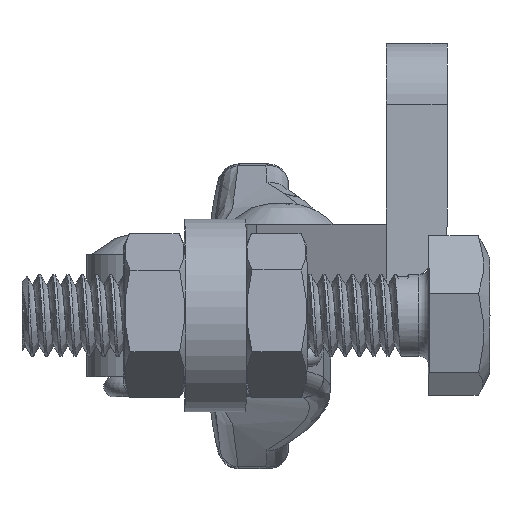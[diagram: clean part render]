
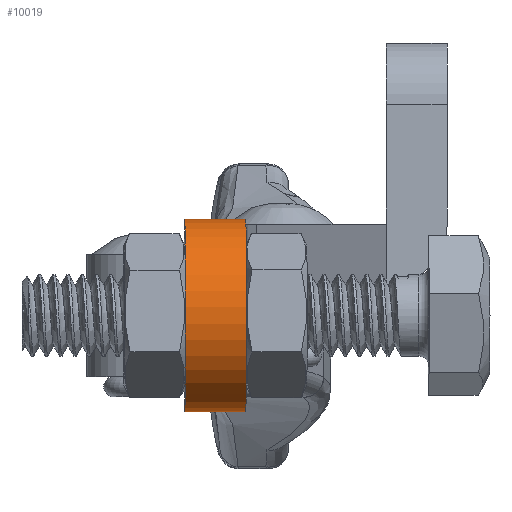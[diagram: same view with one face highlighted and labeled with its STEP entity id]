
A CAD part, left-side view. The second image highlights one B-rep face of the part: STEP entity #10019.
In plain terms, the highlighted cylindrical face has radius 4.75 mm (diameter 9.5 mm), a partial arc.
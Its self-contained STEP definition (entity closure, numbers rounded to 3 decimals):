
#179=CYLINDRICAL_SURFACE('',#10599,4.75);
#301=CIRCLE('',#10595,4.75);
#302=CIRCLE('',#10597,4.75);
#1524=FACE_OUTER_BOUND('',#2105,.T.);
#2105=EDGE_LOOP('',(#8396,#8397,#8398,#8399));
#2928=LINE('',#22401,#3733);
#2930=LINE('',#22404,#3735);
#3733=VECTOR('',#12033,1000.);
#3735=VECTOR('',#12037,1000.);
#4580=VERTEX_POINT('',#22377);
#4584=VERTEX_POINT('',#22384);
#4587=VERTEX_POINT('',#22391);
#4588=VERTEX_POINT('',#22393);
#5909=EDGE_CURVE('',#4584,#4580,#301,.T.);
#5912=EDGE_CURVE('',#4588,#4587,#302,.T.);
#5916=EDGE_CURVE('',#4580,#4587,#2928,.T.);
#5918=EDGE_CURVE('',#4584,#4588,#2930,.T.);
#8396=ORIENTED_EDGE('',*,*,#5912,.T.);
#8397=ORIENTED_EDGE('',*,*,#5916,.F.);
#8398=ORIENTED_EDGE('',*,*,#5909,.F.);
#8399=ORIENTED_EDGE('',*,*,#5918,.T.);
#10019=ADVANCED_FACE('',(#1524),#179,.T.);
#10595=AXIS2_PLACEMENT_3D('',#22386,#12020,#12021);
#10597=AXIS2_PLACEMENT_3D('',#22394,#12026,#12027);
#10599=AXIS2_PLACEMENT_3D('',#22403,#12035,#12036);
#12020=DIRECTION('center_axis',(0.,0.942,
0.337));
#12021=DIRECTION('ref_axis',(0.,-0.337,0.942));
#12026=DIRECTION('center_axis',(0.,0.942,
0.337));
#12027=DIRECTION('ref_axis',(0.,-0.337,0.942));
#12033=DIRECTION('',(0.,-0.942,-0.337));
#12035=DIRECTION('center_axis',(0.,0.942,
0.337));
#12036=DIRECTION('ref_axis',(-1.,0.,0.));
#12037=DIRECTION('',(0.,-0.942,-0.337));
#22377=CARTESIAN_POINT('',(-20.289,3.584,5.301));
#22384=CARTESIAN_POINT('',(-20.289,5.941,-1.291));
#22386=CARTESIAN_POINT('Origin',(-23.5,4.762,2.005));
#22391=CARTESIAN_POINT('',(-20.289,0.759,4.291));
#22393=CARTESIAN_POINT('',(-20.289,3.116,-2.301));
#22394=CARTESIAN_POINT('Origin',(-23.5,1.938,0.995));
#22401=CARTESIAN_POINT('',(-20.289,2.172,4.796));
#22403=CARTESIAN_POINT('Origin',(-23.5,1.938,0.995));
#22404=CARTESIAN_POINT('',(-20.289,4.528,-1.796));
